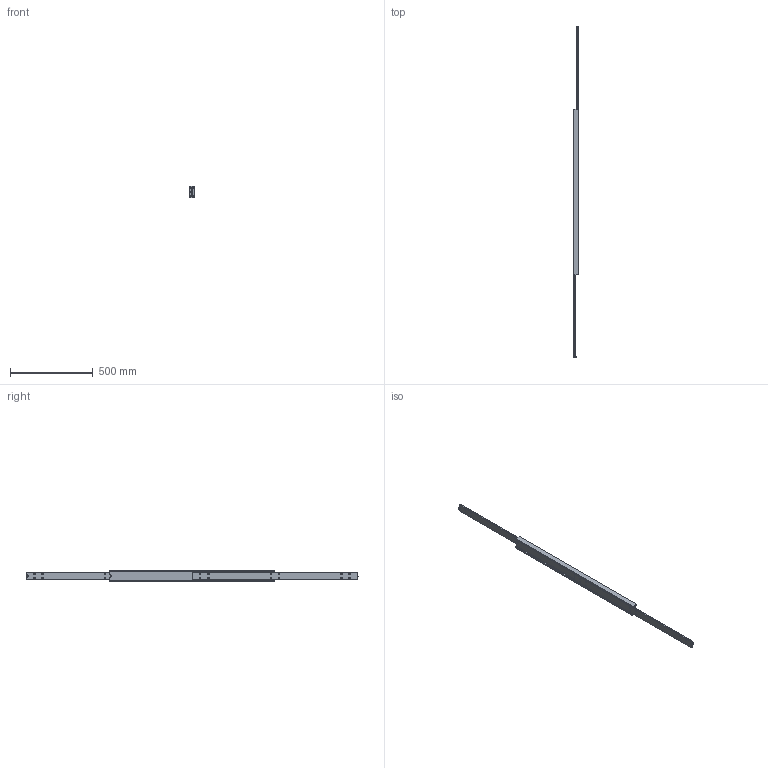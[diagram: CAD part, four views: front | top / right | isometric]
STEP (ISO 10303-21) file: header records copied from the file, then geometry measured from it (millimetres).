
FILE_DESCRIPTION(/* description */ (''),/* implementation_level */ '2;1');
FILE_NAME(/* name */ 'D:\Zeichnungen Schienen Komplett\MX-DTP70\MX-DTP70.100\MX-DTP70.100_ausgefahren.step',/* time_stamp */ '2022-03-03T14:06:34+01:00',/* author */ ('zmile'),/* organization */ (''),/* preprocessor_version */ 'ST-DEVELOPER v16.13',/* originating_system */ 'AutoCAD Mechanical',/* authorisation */ '');
FILE_SCHEMA (('AUTOMOTIVE_DESIGN { 1 0 10303 214 3 1 1 }'));
Length unit declared in the file: millimetre
Products named in the file (1): Product
Bounding box: 32 x 2000.67 x 70 mm (x, y, z)
Volume: 1705087.1 mm3; surface area: 611031.2 mm2
Topology: 61 solids, 63 shells, 190 faces, 632 edges, 456 vertices
Faces by surface type: plane 82, sphere 56, cylinder 38, bspline 8, torus 6
Full cylindrical faces by diameter (mm): 8 x24, 13 x2
Entity records: 12955 total; most frequent: CARTESIAN_POINT 7587, DIRECTION 1090, ORIENTED_EDGE 828, EDGE_CURVE 486, VERTEX_POINT 454, AXIS2_PLACEMENT_3D 439, EDGE_LOOP 386, CIRCLE 252
